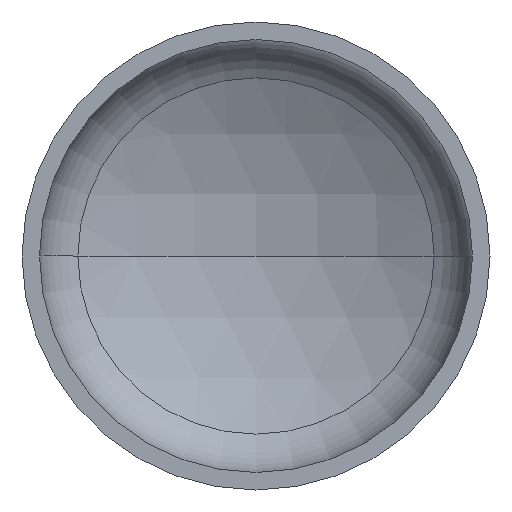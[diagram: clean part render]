
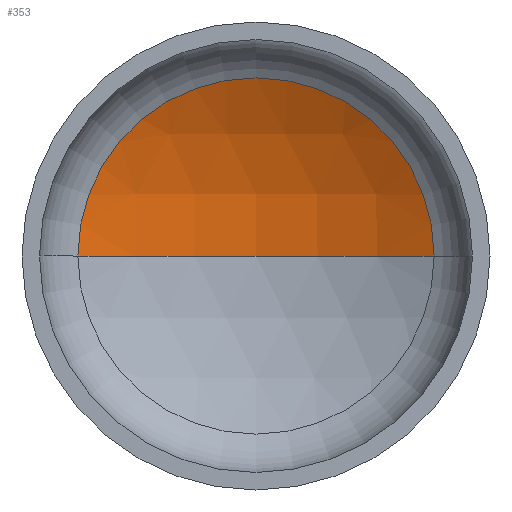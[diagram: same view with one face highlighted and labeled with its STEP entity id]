
A CAD part, front view. The second image highlights one B-rep face of the part: STEP entity #353.
In plain terms, the highlighted spherical face has radius 640 mm.
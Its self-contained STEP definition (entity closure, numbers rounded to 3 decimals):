
#2 = AXIS2_PLACEMENT_3D ( 'NONE', #373, #225, #321 ) ;
#13 = AXIS2_PLACEMENT_3D ( 'NONE', #171, #164, #83 ) ;
#15 = AXIS2_PLACEMENT_3D ( 'NONE', #402, #403, #313 ) ;
#24 = EDGE_LOOP ( 'NONE', ( #120, #110, #57 ) ) ;
#54 = VERTEX_POINT ( 'NONE', #292 ) ;
#57 = ORIENTED_EDGE ( 'NONE', *, *, #356, .T. ) ;
#83 = DIRECTION ( 'NONE',  ( -1., 0., 0. ) ) ;
#92 = CARTESIAN_POINT ( 'NONE',  ( 0., -362.99, 0. ) ) ;
#110 = ORIENTED_EDGE ( 'NONE', *, *, #387, .T. ) ;
#115 = VERTEX_POINT ( 'NONE', #309 ) ;
#120 = ORIENTED_EDGE ( 'NONE', *, *, #381, .F. ) ;
#153 = DIRECTION ( 'NONE',  ( -1., 0., 0. ) ) ;
#164 = DIRECTION ( 'NONE',  ( 0., 0., -1. ) ) ;
#171 = CARTESIAN_POINT ( 'NONE',  ( 0., -362.99, 0. ) ) ;
#175 = CARTESIAN_POINT ( 'NONE',  ( -304.466, 199.949, 0. ) ) ;
#204 = CIRCLE ( 'NONE', #268, 640. ) ;
#211 = CIRCLE ( 'NONE', #15, 304.466 ) ;
#225 = DIRECTION ( 'NONE',  ( 0., 0., 1. ) ) ;
#268 = AXIS2_PLACEMENT_3D ( 'NONE', #92, #290, #153 ) ;
#290 = DIRECTION ( 'NONE',  ( 0., 0., -1. ) ) ;
#292 = CARTESIAN_POINT ( 'NONE',  ( 0., 277.01, 0. ) ) ;
#309 = CARTESIAN_POINT ( 'NONE',  ( 304.466, 199.949, 0. ) ) ;
#313 = DIRECTION ( 'NONE',  ( 1., 0., 0. ) ) ;
#321 = DIRECTION ( 'NONE',  ( 1., 0., 0. ) ) ;
#331 = CIRCLE ( 'NONE', #2, 640. ) ;
#347 = VERTEX_POINT ( 'NONE', #175 ) ;
#352 = FACE_OUTER_BOUND ( 'NONE', #24, .T. ) ;
#353 = ADVANCED_FACE ( 'NONE', ( #352 ), #399, .F. ) ;
#356 = EDGE_CURVE ( 'NONE', #115, #347, #211, .T. ) ;
#373 = CARTESIAN_POINT ( 'NONE',  ( 0., -362.99, 0. ) ) ;
#381 = EDGE_CURVE ( 'NONE', #54, #347, #331, .T. ) ;
#387 = EDGE_CURVE ( 'NONE', #54, #115, #204, .T. ) ;
#399 = SPHERICAL_SURFACE ( 'NONE', #13, 640. ) ;
#402 = CARTESIAN_POINT ( 'NONE',  ( 0., 199.949, 0. ) ) ;
#403 = DIRECTION ( 'NONE',  ( 0., -1., 0. ) ) ;
